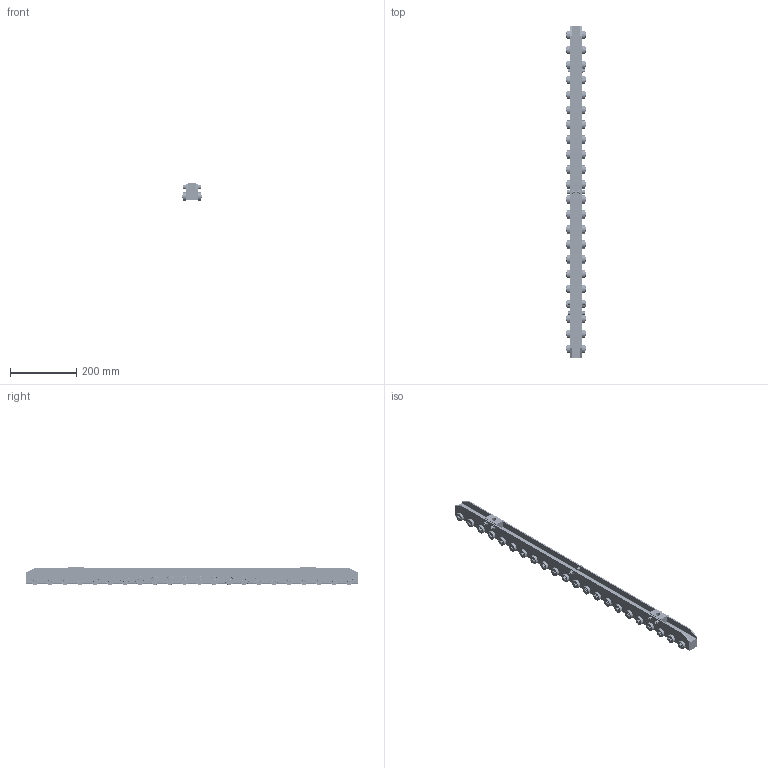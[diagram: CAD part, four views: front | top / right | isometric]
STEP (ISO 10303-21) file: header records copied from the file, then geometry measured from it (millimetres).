
FILE_DESCRIPTION(/* description */ (''),/* implementation_level */ '2;1');
FILE_NAME(/* name */ 'C:/Users/hiroshi_y/Documents/Fusion 360/SPR-RSPO-035Wx050Hx1000L.step',/* time_stamp */ '2022-11-15T14:49:45+09:00',/* author */ (''),/* organization */ (''),/* preprocessor_version */ 'ST-DEVELOPER v19',/* originating_system */ 'Autodesk Translation Framework v11.7.0.108',/* authorisation */ '');
FILE_SCHEMA (('AUTOMOTIVE_DESIGN { 1 0 10303 214 3 1 1 }'));
Products named in the file (65): SPR-RSPO-035Wx050Hx1000L; BODY1; UNUTKZ6; CAP_BOLT_M6(L=16) v1(ミラー) (1); UNUTKZ6 v2(ミラー); BODY2; Bracket; Shaft; 6000ZZ; Shaft_1; 6000ZZ_1; Shaft_2; 6000ZZ_2; Shaft_3; 6000ZZ_3; Shaft_4; 6000ZZ_4; Shaft_5; 6000ZZ_5; Shaft_6; 6000ZZ_6; Shaft_7; 6000ZZ_7; Shaft_8; 6000ZZ_8; Shaft_9; 6000ZZ_9; Shaft_10; 6000ZZ_10; Shaft_11; 6000ZZ_11; Shaft_12; 6000ZZ_12; Shaft_13; 6000ZZ_13; Shaft_14; 6000ZZ_14; Shaft_15; 6000ZZ_15; Shaft_16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
Assembly tree (358 placements, depth 4):
  SPR-RSPO-035Wx050Hx1000L
    BODY1
      CAP_BOLT_M6(L=16)
      UNUTKZ6
      CAP_BOLT_M6(L=16) v1(ミラー) (1)
      UNUTKZ6 v2(ミラー)
    BODY2
    Bracket
      CAP_BOLT_M6(L=16)  x2
      CAP_BOLT_M6(L=16) v1(ミラー)  x2
    Shaft
      6000ZZ
        6000ZZ_shield  x2
        6000ZZ_or
        6000ZZ_ball  x7
        6000ZZ_cage
        6000ZZ_ir
      6000ZZ v1(ミラー)
        6000ZZ_shield(ミラー)  x2
        6000ZZ_or(ミラー)
        6000ZZ_ball(ミラー)  x7
        6000ZZ_cage(ミラー)
        6000ZZ_ir(ミラー)
    Shaft_1
      6000ZZ_1
        6000ZZ_shield  x2
        6000ZZ_or
        6000ZZ_ball  x7
        6000ZZ_cage
        6000ZZ_ir
      6000ZZ v1(ミラー)
        6000ZZ_shield(ミラー)  x2
        6000ZZ_or(ミラー)
        6000ZZ_ball(ミラー)  x7
        6000ZZ_cage(ミラー)
        6000ZZ_ir(ミラー)
    Shaft_2
      6000ZZ_2
        6000ZZ_shield  x2
        6000ZZ_or
        6000ZZ_ball  x7
        6000ZZ_cage
        6000ZZ_ir
      6000ZZ v1(ミラー)
        6000ZZ_shield(ミラー)  x2
        6000ZZ_or(ミラー)
        6000ZZ_ball(ミラー)  x7
        6000ZZ_cage(ミラー)
        6000ZZ_ir(ミラー)
    Shaft_3
      6000ZZ_3
        6000ZZ_shield  x2
        6000ZZ_or
        6000ZZ_ball  x7
        6000ZZ_cage
        6000ZZ_ir
      6000ZZ v1(ミラー)
        6000ZZ_shield(ミラー)  x2
        6000ZZ_or(ミラー)
        6000ZZ_ball(ミラー)  x7
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Bounding box: 62 x 1000 x 54 mm (x, y, z)
Volume: 676735 mm3; surface area: 709305 mm2
Topology: 708 solids, 708 shells, 3884 faces, 9366 edges, 6038 vertices
Faces by surface type: cylinder 1308, plane 1094, sphere 616, torus 442, cone 424
Full cylindrical faces by diameter (mm): 2 x44, 4.917 x2, 5.035 x4, 5.5 x20, 6 x10, 6.5 x10, 8 x2, 10 x122, 10.2 x88, 13.75 x176, 14 x10, 14.023 x2, 14.703 x88, 16 x88, 16.809 x44, 19.191 x44, 20.704 x88, 22.8 x176, 26 x44
Entity records: 52721 total; most frequent: CARTESIAN_POINT 15348, DIRECTION 7592, ORIENTED_EDGE 6776, EDGE_CURVE 3388, AXIS2_PLACEMENT_3D 3098, VERTEX_POINT 2212, EDGE_LOOP 1898, FACE_OUTER_BOUND 1484
